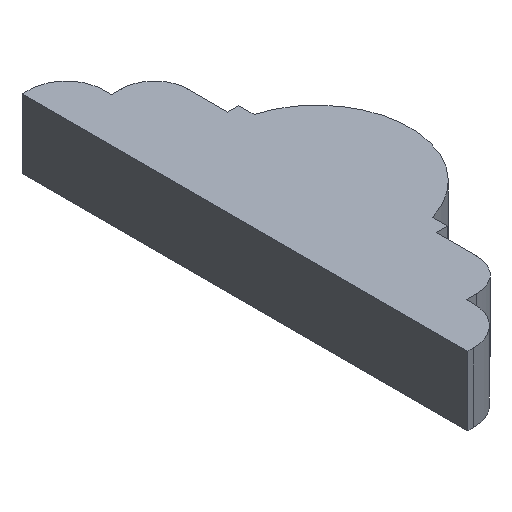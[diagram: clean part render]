
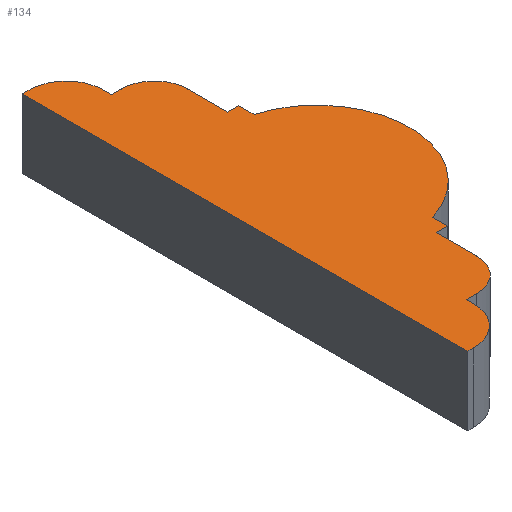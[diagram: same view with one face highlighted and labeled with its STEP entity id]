
A CAD part, isometric view. The second image highlights one B-rep face of the part: STEP entity #134.
In plain terms, the highlighted planar face has unit normal (0, 0, 1).
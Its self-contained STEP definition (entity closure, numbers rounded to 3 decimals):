
#7 = DIRECTION ( 'NONE',  ( 0., 0., 1. ) ) ;
#8 = AXIS2_PLACEMENT_3D ( 'NONE', #273, #487, #605 ) ;
#9 = DIRECTION ( 'NONE',  ( 0., 0., 1. ) ) ;
#12 = CARTESIAN_POINT ( 'NONE',  ( 7.886, 58.086, 10. ) ) ;
#20 = VECTOR ( 'NONE', #454, 1000. ) ;
#23 = VECTOR ( 'NONE', #110, 1000. ) ;
#24 = VECTOR ( 'NONE', #223, 1000. ) ;
#32 = DIRECTION ( 'NONE',  ( 1., 0., 0. ) ) ;
#33 = VERTEX_POINT ( 'NONE', #380 ) ;
#37 = ORIENTED_EDGE ( 'NONE', *, *, #381, .T. ) ;
#38 = LINE ( 'NONE', #260, #154 ) ;
#40 = VECTOR ( 'NONE', #106, 1000. ) ;
#45 = ORIENTED_EDGE ( 'NONE', *, *, #55, .T. ) ;
#46 = DIRECTION ( 'NONE',  ( 1., 0., 0. ) ) ;
#47 = VERTEX_POINT ( 'NONE', #707 ) ;
#50 = CARTESIAN_POINT ( 'NONE',  ( 12.648, 0., 10. ) ) ;
#55 = EDGE_CURVE ( 'NONE', #412, #694, #443, .T. ) ;
#60 = ORIENTED_EDGE ( 'NONE', *, *, #386, .F. ) ;
#68 = CARTESIAN_POINT ( 'NONE',  ( 6.418, 59.109, 10. ) ) ;
#70 = CARTESIAN_POINT ( 'NONE',  ( 0.862, 0., 10. ) ) ;
#71 = CARTESIAN_POINT ( 'NONE',  ( 6.418, 6.579, 10. ) ) ;
#82 = EDGE_CURVE ( 'NONE', #312, #434, #449, .T. ) ;
#85 = VECTOR ( 'NONE', #635, 1000. ) ;
#89 = CARTESIAN_POINT ( 'NONE',  ( 0.987, 59.233, 10. ) ) ;
#95 = ORIENTED_EDGE ( 'NONE', *, *, #117, .T. ) ;
#96 = LINE ( 'NONE', #688, #40 ) ;
#99 = ORIENTED_EDGE ( 'NONE', *, *, #276, .T. ) ;
#100 = VERTEX_POINT ( 'NONE', #288 ) ;
#106 = DIRECTION ( 'NONE',  ( 1., 0., 0. ) ) ;
#110 = DIRECTION ( 'NONE',  ( 1., 0., 0. ) ) ;
#117 = EDGE_CURVE ( 'NONE', #553, #332, #244, .T. ) ;
#134 = ADVANCED_FACE ( 'NONE', ( #350 ), #507, .T. ) ;
#136 = ORIENTED_EDGE ( 'NONE', *, *, #522, .T. ) ;
#146 = CARTESIAN_POINT ( 'NONE',  ( 0., 6.579, 10. ) ) ;
#153 = CARTESIAN_POINT ( 'NONE',  ( 12.648, 47.461, 10. ) ) ;
#154 = VECTOR ( 'NONE', #473, 1000. ) ;
#181 = LINE ( 'NONE', #447, #333 ) ;
#187 = ORIENTED_EDGE ( 'NONE', *, *, #695, .F. ) ;
#191 = EDGE_CURVE ( 'NONE', #47, #437, #283, .T. ) ;
#195 = LINE ( 'NONE', #639, #400 ) ;
#201 = VERTEX_POINT ( 'NONE', #12 ) ;
#208 = CARTESIAN_POINT ( 'NONE',  ( 0., 64.665, 10. ) ) ;
#213 = ORIENTED_EDGE ( 'NONE', *, *, #262, .T. ) ;
#214 = LINE ( 'NONE', #709, #422 ) ;
#216 = EDGE_CURVE ( 'NONE', #363, #201, #426, .T. ) ;
#219 = DIRECTION ( 'NONE',  ( 0., 1., 0. ) ) ;
#223 = DIRECTION ( 'NONE',  ( 1., 0., 0. ) ) ;
#232 = DIRECTION ( 'NONE',  ( 1., 0., 0. ) ) ;
#235 = CARTESIAN_POINT ( 'NONE',  ( 0., 64.665, 10. ) ) ;
#239 = CARTESIAN_POINT ( 'NONE',  ( 0.862, 64.665, 10. ) ) ;
#242 = AXIS2_PLACEMENT_3D ( 'NONE', #314, #700, #46 ) ;
#244 = CIRCLE ( 'NONE', #544, 13.504 ) ;
#245 = AXIS2_PLACEMENT_3D ( 'NONE', #89, #646, #461 ) ;
#249 = ORIENTED_EDGE ( 'NONE', *, *, #295, .F. ) ;
#260 = CARTESIAN_POINT ( 'NONE',  ( 14.274, 0., 10. ) ) ;
#262 = EDGE_CURVE ( 'NONE', #641, #412, #602, .T. ) ;
#273 = CARTESIAN_POINT ( 'NONE',  ( 7.855, 11.373, 10. ) ) ;
#276 = EDGE_CURVE ( 'NONE', #437, #459, #358, .T. ) ;
#280 = CIRCLE ( 'NONE', #245, 5.433 ) ;
#283 = LINE ( 'NONE', #496, #24 ) ;
#285 = CARTESIAN_POINT ( 'NONE',  ( 7.829, 53.267, 10. ) ) ;
#288 = CARTESIAN_POINT ( 'NONE',  ( 14.274, 47.461, 10. ) ) ;
#289 = CARTESIAN_POINT ( 'NONE',  ( 6.418, 5.556, 10. ) ) ;
#291 = VECTOR ( 'NONE', #32, 1000. ) ;
#295 = EDGE_CURVE ( 'NONE', #363, #361, #322, .T. ) ;
#305 = ORIENTED_EDGE ( 'NONE', *, *, #580, .F. ) ;
#309 = ORIENTED_EDGE ( 'NONE', *, *, #191, .T. ) ;
#312 = VERTEX_POINT ( 'NONE', #208 ) ;
#314 = CARTESIAN_POINT ( 'NONE',  ( 0.866, 5.552, 10. ) ) ;
#322 = LINE ( 'NONE', #50, #481 ) ;
#327 = EDGE_CURVE ( 'NONE', #694, #33, #486, .T. ) ;
#332 = VERTEX_POINT ( 'NONE', #651 ) ;
#333 = VECTOR ( 'NONE', #341, 1000. ) ;
#341 = DIRECTION ( 'NONE',  ( 0., -1., 0. ) ) ;
#350 = FACE_OUTER_BOUND ( 'NONE', #533, .T. ) ;
#354 = LINE ( 'NONE', #570, #20 ) ;
#358 = CIRCLE ( 'NONE', #242, 5.552 ) ;
#360 = CARTESIAN_POINT ( 'NONE',  ( 0., 47.461, 10. ) ) ;
#361 = VERTEX_POINT ( 'NONE', #153 ) ;
#363 = VERTEX_POINT ( 'NONE', #419 ) ;
#366 = DIRECTION ( 'NONE',  ( 1., 0., 0. ) ) ;
#367 = ORIENTED_EDGE ( 'NONE', *, *, #372, .F. ) ;
#372 = EDGE_CURVE ( 'NONE', #587, #201, #96, .T. ) ;
#380 = CARTESIAN_POINT ( 'NONE',  ( 12.648, 17.204, 10. ) ) ;
#381 = EDGE_CURVE ( 'NONE', #33, #650, #195, .T. ) ;
#385 = DIRECTION ( 'NONE',  ( 0., 1., 0. ) ) ;
#386 = EDGE_CURVE ( 'NONE', #100, #332, #38, .T. ) ;
#390 = AXIS2_PLACEMENT_3D ( 'NONE', #498, #568, #445 ) ;
#398 = CARTESIAN_POINT ( 'NONE',  ( 10.428, 32.333, 10. ) ) ;
#400 = VECTOR ( 'NONE', #366, 1000. ) ;
#412 = VERTEX_POINT ( 'NONE', #497 ) ;
#419 = CARTESIAN_POINT ( 'NONE',  ( 12.648, 53.324, 10. ) ) ;
#422 = VECTOR ( 'NONE', #219, 1000. ) ;
#426 = CIRCLE ( 'NONE', #515, 4.82 ) ;
#429 = CARTESIAN_POINT ( 'NONE',  ( 12.648, 0., 10. ) ) ;
#434 = VERTEX_POINT ( 'NONE', #239 ) ;
#437 = VERTEX_POINT ( 'NONE', #70 ) ;
#443 = CIRCLE ( 'NONE', #8, 4.794 ) ;
#445 = DIRECTION ( 'NONE',  ( 1., 0., 0. ) ) ;
#447 = CARTESIAN_POINT ( 'NONE',  ( 6.418, 0., 10. ) ) ;
#449 = LINE ( 'NONE', #235, #628 ) ;
#452 = DIRECTION ( 'NONE',  ( 1., 0., 0. ) ) ;
#454 = DIRECTION ( 'NONE',  ( 0., 1., 0. ) ) ;
#457 = CARTESIAN_POINT ( 'NONE',  ( 14.274, 19.388, 10. ) ) ;
#459 = VERTEX_POINT ( 'NONE', #289 ) ;
#461 = DIRECTION ( 'NONE',  ( 1., 0., 0. ) ) ;
#473 = DIRECTION ( 'NONE',  ( 0., -1., 0. ) ) ;
#475 = CARTESIAN_POINT ( 'NONE',  ( 12.648, 11.341, 10. ) ) ;
#476 = ORIENTED_EDGE ( 'NONE', *, *, #681, .T. ) ;
#481 = VECTOR ( 'NONE', #531, 1000. ) ;
#486 = LINE ( 'NONE', #429, #85 ) ;
#487 = DIRECTION ( 'NONE',  ( 0., 0., 1. ) ) ;
#496 = CARTESIAN_POINT ( 'NONE',  ( 0., 0., 10. ) ) ;
#497 = CARTESIAN_POINT ( 'NONE',  ( 7.886, 6.579, 10. ) ) ;
#498 = CARTESIAN_POINT ( 'NONE',  ( 0., 0., 10. ) ) ;
#500 = CARTESIAN_POINT ( 'NONE',  ( 6.418, 58.086, 10. ) ) ;
#507 = PLANE ( 'NONE',  #390 ) ;
#508 = EDGE_CURVE ( 'NONE', #47, #312, #214, .T. ) ;
#515 = AXIS2_PLACEMENT_3D ( 'NONE', #285, #9, #232 ) ;
#520 = LINE ( 'NONE', #360, #291 ) ;
#522 = EDGE_CURVE ( 'NONE', #650, #553, #659, .T. ) ;
#531 = DIRECTION ( 'NONE',  ( 0., -1., 0. ) ) ;
#533 = EDGE_LOOP ( 'NONE', ( #309, #99, #632, #213, #45, #702, #37, #136, #95, #60, #187, #249, #600, #367, #305, #476, #699, #541 ) ) ;
#541 = ORIENTED_EDGE ( 'NONE', *, *, #508, .F. ) ;
#544 = AXIS2_PLACEMENT_3D ( 'NONE', #398, #7, #621 ) ;
#553 = VERTEX_POINT ( 'NONE', #457 ) ;
#554 = CARTESIAN_POINT ( 'NONE',  ( 14.274, 0., 10. ) ) ;
#568 = DIRECTION ( 'NONE',  ( 0., 0., 1. ) ) ;
#570 = CARTESIAN_POINT ( 'NONE',  ( 6.418, 0., 10. ) ) ;
#574 = VECTOR ( 'NONE', #385, 1000. ) ;
#580 = EDGE_CURVE ( 'NONE', #644, #587, #181, .T. ) ;
#587 = VERTEX_POINT ( 'NONE', #500 ) ;
#600 = ORIENTED_EDGE ( 'NONE', *, *, #216, .T. ) ;
#602 = LINE ( 'NONE', #146, #23 ) ;
#605 = DIRECTION ( 'NONE',  ( 1., 0., 0. ) ) ;
#613 = EDGE_CURVE ( 'NONE', #459, #641, #354, .T. ) ;
#620 = CARTESIAN_POINT ( 'NONE',  ( 14.274, 17.204, 10. ) ) ;
#621 = DIRECTION ( 'NONE',  ( 1., 0., 0. ) ) ;
#628 = VECTOR ( 'NONE', #452, 1000. ) ;
#632 = ORIENTED_EDGE ( 'NONE', *, *, #613, .T. ) ;
#635 = DIRECTION ( 'NONE',  ( 0., 1., 0. ) ) ;
#639 = CARTESIAN_POINT ( 'NONE',  ( 0., 17.204, 10. ) ) ;
#641 = VERTEX_POINT ( 'NONE', #71 ) ;
#644 = VERTEX_POINT ( 'NONE', #68 ) ;
#646 = DIRECTION ( 'NONE',  ( 0., 0., 1. ) ) ;
#650 = VERTEX_POINT ( 'NONE', #620 ) ;
#651 = CARTESIAN_POINT ( 'NONE',  ( 14.274, 45.278, 10. ) ) ;
#659 = LINE ( 'NONE', #554, #574 ) ;
#681 = EDGE_CURVE ( 'NONE', #644, #434, #280, .T. ) ;
#688 = CARTESIAN_POINT ( 'NONE',  ( 0., 58.086, 10. ) ) ;
#694 = VERTEX_POINT ( 'NONE', #475 ) ;
#695 = EDGE_CURVE ( 'NONE', #361, #100, #520, .T. ) ;
#699 = ORIENTED_EDGE ( 'NONE', *, *, #82, .F. ) ;
#700 = DIRECTION ( 'NONE',  ( 0., 0., 1. ) ) ;
#702 = ORIENTED_EDGE ( 'NONE', *, *, #327, .T. ) ;
#707 = CARTESIAN_POINT ( 'NONE',  ( 0., 0., 10. ) ) ;
#709 = CARTESIAN_POINT ( 'NONE',  ( 0., 0., 10. ) ) ;
